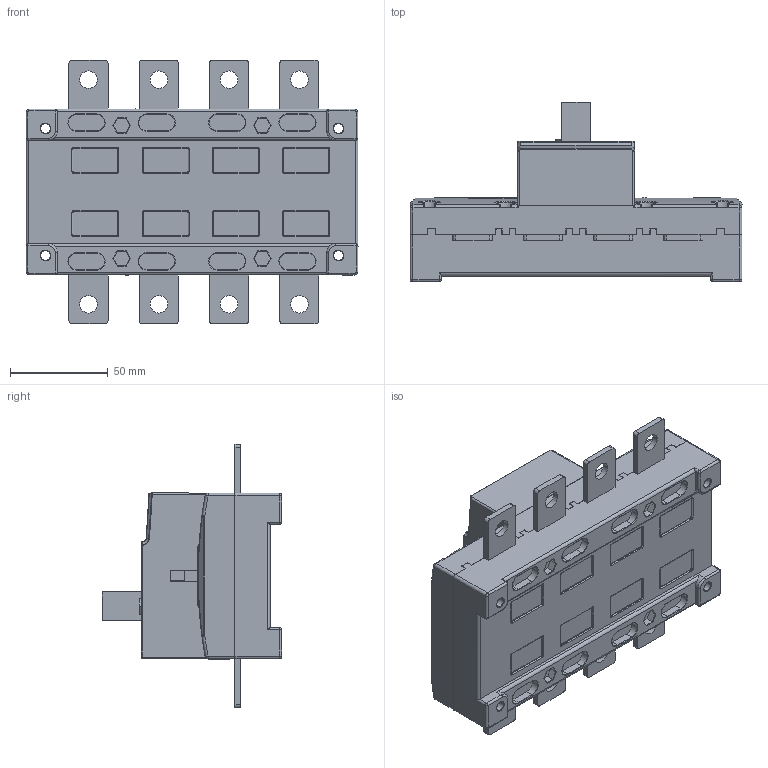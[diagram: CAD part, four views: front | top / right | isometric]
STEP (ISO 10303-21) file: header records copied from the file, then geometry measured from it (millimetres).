
FILE_DESCRIPTION((''),'2;1');
FILE_NAME('NH40-160-4_ASM','2018-05-15T',('zhuanghy'),(''),'PRO/ENGINEER BY PARAMETRIC TECHNOLOGY CORPORATION, 2008380','PRO/ENGINEER BY PARAMETRIC TECHNOLOGY CORPORATION, 2008380','');
FILE_SCHEMA(('CONFIG_CONTROL_DESIGN'));
Length unit declared in the file: millimetre
Products named in the file (7): PRT1114_31; PRT103_38; PRT0031; PRT0032; PRT0033; ASM0006_ASM_1_ASM; NH40-160-4_ASM
Assembly tree (13 placements, depth 3):
  NH40-160-4_ASM
    ASM0006_ASM_1_ASM
      PRT1114_31
      PRT103_38
      PRT0031
      PRT0032  x8
      PRT0033
Bounding box: 170 x 92 x 135 mm (x, y, z)
Volume: 556730.5 mm3; surface area: 146206.1 mm2
Topology: 12 solids, 12 shells, 1482 faces, 3977 edges, 2537 vertices
Faces by surface type: plane 698, cylinder 537, torus 145, bspline 74, sphere 26, cone 2
Entity records: 47581 total; most frequent: CARTESIAN_POINT 13045, ORIENTED_EDGE 7318, DIRECTION 7159, EDGE_CURVE 3659, AXIS2_PLACEMENT_3D 2501, VERTEX_POINT 2341, VECTOR 2157, LINE 2157
